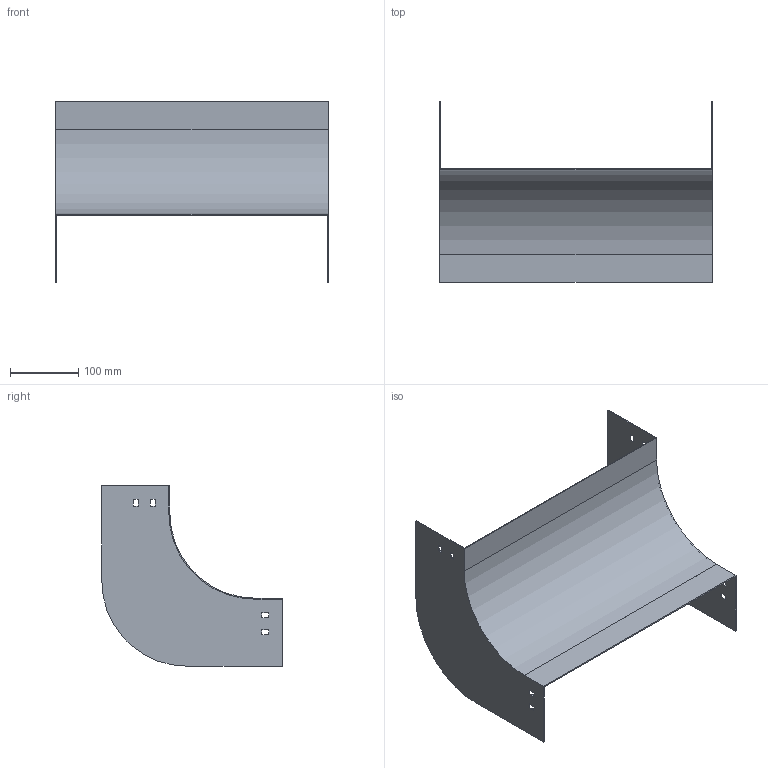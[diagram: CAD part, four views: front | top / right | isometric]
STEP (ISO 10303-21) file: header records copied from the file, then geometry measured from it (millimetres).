
FILE_DESCRIPTION (( 'STEP AP214' ), '1' );
FILE_NAME ('D9_401.step', '2025-07-16T09:08:59', ( '' ), ( '' ), 'SwSTEP 2.0', 'SolidWorks 2023', '' );
FILE_SCHEMA (( 'AUTOMOTIVE_DESIGN' ));
Length unit declared in the file: millimetre
Products named in the file (1): D9_401
Bounding box: 400 x 265 x 265 mm (x, y, z)
Volume: 293427.7 mm3; surface area: 394861.5 mm2
Topology: 1 solids, 1 shells, 50 faces, 144 edges, 96 vertices
Faces by surface type: plane 46, cylinder 4
Entity records: 1671 total; most frequent: CARTESIAN_POINT 291, ORIENTED_EDGE 288, DIRECTION 254, EDGE_CURVE 144, LINE 136, VECTOR 136, VERTEX_POINT 96, EDGE_LOOP 66
